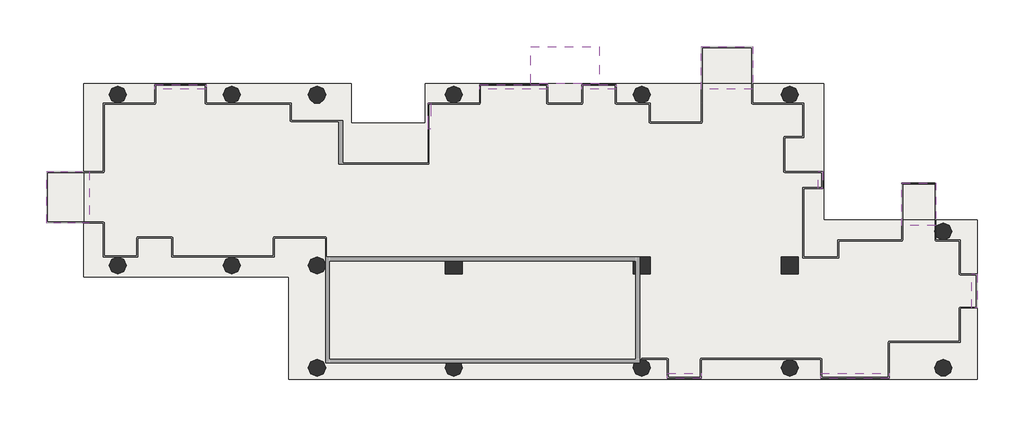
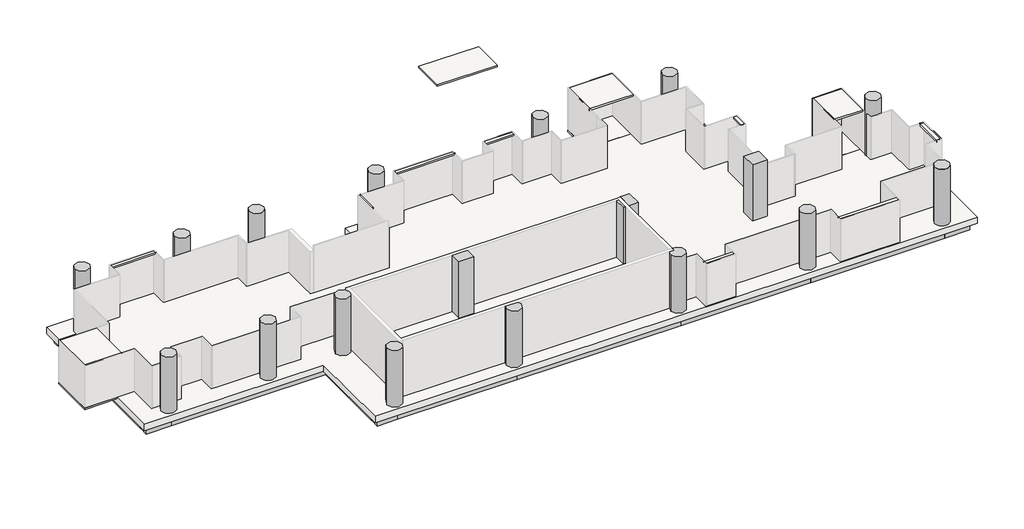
# One storey, part 2 of 2: 40 slabs, 25 beams, 18 columns, 1 wall.
"""IFC4 building model written with IfcOpenShell, lengths in millimetres."""

from ifc_helpers import new_model, si_unit, point, frame, frame_2d, origin, place, context, project, spatial, polyline, circle_curve, trimmed, segment, composite_curve, outline, extrude, faceted_brep, transform, mapped, element, save
from ifc_brep_helpers import plane_surface, cylinder_surface, advanced_brep
from components import ajn_arc_ossature_rec_ba_700x600_5242ffbb, ajn_arc_ossature_rec_ba_700x600_213c05e2, ajn_arc_ossature_rec_ba_700x600_4d623bda, ajn_arc_ossature_rec_ba_700x600_c2a8f1af, ajn_arc_ossature_rec_ba_700x600_b2f97811, ajn_arc_ossature_rec_ba_700x600_e688680c, ajn_arc_ossature_rec_ba_700x600_8adee879, ajn_arc_ossature_rec_ba_700x600_6677e51c, ajn_arc_ossature_rec_ba_700x600_60e35d56, ajn_arc_ossature_rec_ba_700x600_9ae0f913, ajn_arc_ossature_rec_ba_700x600_5c14351b, ajn_arc_ossature_rec_ba_700x600_e883967f, ajn_arc_ossature_rec_ba_700x600_0984b03c, ajn_arc_ossature_rec_ba_700x600_78f846f2, ajn_arc_ossature_rec_ba_700x600_e869caa8, ajn_arc_ossature_rec_ba_700x600_0388eb48, ajn_arc_ossature_rec_ba_700x600_e143517c, ajn_arc_ossature_rec_ba_700x600_758f1bfa, ajn_arc_ossature_rec_ba_700x600_64ba80e1, ajn_arc_poteau_circulaire_638d3540

model = new_model("IFC4")

# Units and contexts
model_context = context("Model", 3, world=origin())
ifc_project = project(units=[si_unit("LENGTHUNIT", "METRE", prefix="MILLI")], contexts=[model_context])

# Site, building, storey
site = spatial("IfcSite", under=ifc_project)
building = spatial("IfcBuilding", under=site)
storey = spatial("IfcBuildingStorey", under=building, Name="TW-L 16", Elevation=56799.9999686)

# Beams
placement = place(None, origin())
ajn_arc_ossature_rec_ba_700x600_shape = ajn_arc_ossature_rec_ba_700x600_5242ffbb(model_context)
element("IfcBeam", 1, ObjectType="AJN-ARC-OSSATURE REC-BA : 700x600", at=placement, inside=storey, context=model_context, shape_type="MappedRepresentation", body=[
    mapped(ajn_arc_ossature_rec_ba_700x600_shape, transform((119350.0, 39300.0, 56249.9999686), x_axis=(-1.0, 0.0, 0.0), y_axis=(0.0, -1.0, 0.0), z_axis=(0.0, 0.0, 1.0))),
])
ajn_arc_ossature_rec_ba_700x600_2_shape = ajn_arc_ossature_rec_ba_700x600_213c05e2(model_context)
element("IfcBeam", 2, ObjectType="AJN-ARC-OSSATURE REC-BA : 700x600", at=placement, inside=storey, context=model_context, shape_type="MappedRepresentation", body=[
    mapped(ajn_arc_ossature_rec_ba_700x600_2_shape, transform((100900.0, 34800.0, 56249.9999686), x_axis=(0.0, -1.0, 0.0), y_axis=(1.0, 0.0, 0.0), z_axis=(0.0, 0.0, 1.0))),
])
ajn_arc_ossature_rec_ba_700x600_3_shape = ajn_arc_ossature_rec_ba_700x600_4d623bda(model_context)
element("IfcBeam", 3, ObjectType="AJN-ARC-OSSATURE REC-BA : 700x600", at=placement, inside=storey, context=model_context, shape_type="MappedRepresentation", body=[
    mapped(ajn_arc_ossature_rec_ba_700x600_3_shape, transform((112150.0, 24900.0, 56249.9999686), x_axis=(1.0, 0.0, 0.0), y_axis=(0.0, 1.0, 0.0), z_axis=(0.0, 0.0, 1.0))),
])
ajn_arc_ossature_rec_ba_700x600_4_shape = ajn_arc_ossature_rec_ba_700x600_c2a8f1af(model_context)
element("IfcBeam", 4, ObjectType="AJN-ARC-OSSATURE REC-BA : 700x600", at=placement, inside=storey, context=model_context, shape_type="MappedRepresentation", body=[
    mapped(ajn_arc_ossature_rec_ba_700x600_4_shape, transform((116200.0, 24900.0, 56249.9999686), x_axis=(1.0, 0.0, 0.0), y_axis=(0.0, 1.0, 0.0), z_axis=(0.0, 0.0, 1.0))),
])
ajn_arc_ossature_rec_ba_700x600_5_shape = ajn_arc_ossature_rec_ba_700x600_b2f97811(model_context)
element("IfcBeam", 5, ObjectType="AJN-ARC-OSSATURE REC-BA : 700x600", at=placement, inside=storey, context=model_context, shape_type="MappedRepresentation", body=[
    mapped(ajn_arc_ossature_rec_ba_700x600_5_shape, transform((106900.0, 30300.0, 56249.9999686), x_axis=(1.0, 0.0, 0.0), y_axis=(0.0, 1.0, 0.0), z_axis=(0.0, 0.0, 1.0))),
])
ajn_arc_ossature_rec_ba_700x600_6_shape = ajn_arc_ossature_rec_ba_700x600_e688680c(model_context)
element("IfcBeam", 6, ObjectType="AJN-ARC-OSSATURE REC-BA : 700x600", at=placement, inside=storey, context=model_context, shape_type="MappedRepresentation", body=[
    mapped(ajn_arc_ossature_rec_ba_700x600_6_shape, transform((111700.0, 27600.0, 56249.9999686), x_axis=(0.0, -1.0, 0.0), y_axis=(1.0, 0.0, 0.0), z_axis=(0.0, 0.0, 1.0))),
])
ajn_arc_ossature_rec_ba_700x600_7_shape = ajn_arc_ossature_rec_ba_700x600_8adee879(model_context)
element("IfcBeam", 7, ObjectType="AJN-ARC-OSSATURE REC-BA : 700x600", at=placement, inside=storey, context=model_context, shape_type="MappedRepresentation", body=[
    mapped(ajn_arc_ossature_rec_ba_700x600_7_shape, transform((124750.0, 24900.0, 56249.9999686), x_axis=(1.0, 0.0, 0.0), y_axis=(0.0, 1.0, 0.0), z_axis=(0.0, 0.0, 1.0))),
])
element("IfcBeam", 8, ObjectType="AJN-ARC-OSSATURE REC-BA : 700x600", at=placement, inside=storey, context=model_context, shape_type="MappedRepresentation", body=[
    mapped(ajn_arc_ossature_rec_ba_700x600_7_shape, transform((124750.0, 39300.0, 56249.9999686), x_axis=(-1.0, 0.0, 0.0), y_axis=(0.0, -1.0, 0.0), z_axis=(0.0, 0.0, 1.0))),
])
ajn_arc_ossature_rec_ba_700x600_8_shape = ajn_arc_ossature_rec_ba_700x600_6677e51c(model_context)
element("IfcBeam", 9, ObjectType="AJN-ARC-OSSATURE REC-BA : 700x600", at=placement, inside=storey, context=model_context, shape_type="MappedRepresentation", body=[
    mapped(ajn_arc_ossature_rec_ba_700x600_8_shape, transform((133600.0, 24900.0, 56249.9999686), x_axis=(1.0, 0.0, 0.0), y_axis=(0.0, 1.0, 0.0), z_axis=(0.0, 0.0, 1.0))),
])
ajn_arc_ossature_rec_ba_700x600_9_shape = ajn_arc_ossature_rec_ba_700x600_60e35d56(model_context)
element("IfcBeam", 10, ObjectType="AJN-ARC-OSSATURE REC-BA : 700x600", at=placement, inside=storey, context=model_context, shape_type="MappedRepresentation", body=[
    mapped(ajn_arc_ossature_rec_ba_700x600_9_shape, transform((141550.0, 24900.0, 56249.9999686), x_axis=(1.0, 0.0, 0.0), y_axis=(0.0, 1.0, 0.0), z_axis=(0.0, 0.0, 1.0))),
])
ajn_arc_ossature_rec_ba_700x600_10_shape = ajn_arc_ossature_rec_ba_700x600_9ae0f913(model_context)
element("IfcBeam", 11, ObjectType="AJN-ARC-OSSATURE REC-BA : 700x600", at=placement, inside=storey, context=model_context, shape_type="MappedRepresentation", body=[
    mapped(ajn_arc_ossature_rec_ba_700x600_10_shape, transform((146200.0, 24900.0, 56249.9999686), x_axis=(1.0, 0.0, 0.0), y_axis=(0.0, 1.0, 0.0), z_axis=(0.0, 0.0, 1.0))),
])
element("IfcBeam", 12, ObjectType="AJN-ARC-OSSATURE REC-BA : 700x600", at=placement, inside=storey, context=model_context, shape_type="MappedRepresentation", body=[
    mapped(ajn_arc_ossature_rec_ba_700x600_10_shape, transform((101500.0, 39300.0, 56249.9999686), x_axis=(-1.0, 0.0, 0.0), y_axis=(0.0, -1.0, 0.0), z_axis=(0.0, 0.0, 1.0))),
])
ajn_arc_ossature_rec_ba_700x600_11_shape = ajn_arc_ossature_rec_ba_700x600_5c14351b(model_context)
element("IfcBeam", 13, ObjectType="AJN-ARC-OSSATURE REC-BA : 700x600", at=placement, inside=storey, context=model_context, shape_type="MappedRepresentation", body=[
    mapped(ajn_arc_ossature_rec_ba_700x600_11_shape, transform((146800.0, 28500.0, 56249.9999686), x_axis=(0.0, 1.0, 0.0), y_axis=(-1.0, 0.0, 0.0), z_axis=(0.0, 0.0, 1.0))),
])
element("IfcBeam", 14, ObjectType="AJN-ARC-OSSATURE REC-BA : 700x600", at=placement, inside=storey, context=model_context, shape_type="MappedRepresentation", body=[
    mapped(ajn_arc_ossature_rec_ba_700x600_11_shape, transform((138700.0, 35700.0, 56249.9999686), x_axis=(0.0, 1.0, 0.0), y_axis=(-1.0, 0.0, 0.0), z_axis=(0.0, 0.0, 1.0))),
])
ajn_arc_ossature_rec_ba_700x600_12_shape = ajn_arc_ossature_rec_ba_700x600_e883967f(model_context)
element("IfcBeam", 15, ObjectType="AJN-ARC-OSSATURE REC-BA : 700x600", at=placement, inside=storey, context=model_context, shape_type="MappedRepresentation", body=[
    mapped(ajn_arc_ossature_rec_ba_700x600_12_shape, transform((146200.0, 32100.0, 56249.9999686), x_axis=(-1.0, 0.0, 0.0), y_axis=(0.0, -1.0, 0.0), z_axis=(0.0, 0.0, 1.0))),
])
element("IfcBeam", 16, ObjectType="AJN-ARC-OSSATURE REC-BA : 700x600", at=placement, inside=storey, context=model_context, shape_type="MappedRepresentation", body=[
    mapped(ajn_arc_ossature_rec_ba_700x600_12_shape, transform((138100.0, 39300.0, 56249.9999686), x_axis=(-1.0, 0.0, 0.0), y_axis=(0.0, -1.0, 0.0), z_axis=(0.0, 0.0, 1.0))),
])
element("IfcBeam", 17, ObjectType="AJN-ARC-OSSATURE REC-BA : 700x600", at=placement, inside=storey, context=model_context, shape_type="MappedRepresentation", body=[
    mapped(ajn_arc_ossature_rec_ba_700x600_12_shape, transform((113200.0, 39300.0, 56249.9999686), x_axis=(-1.0, 0.0, 0.0), y_axis=(0.0, -1.0, 0.0), z_axis=(0.0, 0.0, 1.0))),
])
element("IfcBeam", 18, ObjectType="AJN-ARC-OSSATURE REC-BA : 700x600", at=placement, inside=storey, context=model_context, shape_type="MappedRepresentation", body=[
    mapped(ajn_arc_ossature_rec_ba_700x600_12_shape, transform((101500.0, 30300.0, 56249.9999686), x_axis=(1.0, 0.0, 0.0), y_axis=(0.0, 1.0, 0.0), z_axis=(0.0, 0.0, 1.0))),
])
ajn_arc_ossature_rec_ba_700x600_13_shape = ajn_arc_ossature_rec_ba_700x600_0984b03c(model_context)
element("IfcBeam", 19, ObjectType="AJN-ARC-OSSATURE REC-BA : 700x600", at=placement, inside=storey, context=model_context, shape_type="MappedRepresentation", body=[
    mapped(ajn_arc_ossature_rec_ba_700x600_13_shape, transform((142150.0, 32100.0, 56249.9999686), x_axis=(-1.0, 0.0, 0.0), y_axis=(0.0, -1.0, 0.0), z_axis=(0.0, 0.0, 1.0))),
])
ajn_arc_ossature_rec_ba_700x600_14_shape = ajn_arc_ossature_rec_ba_700x600_78f846f2(model_context)
element("IfcBeam", 20, ObjectType="AJN-ARC-OSSATURE REC-BA : 700x600", at=placement, inside=storey, context=model_context, shape_type="MappedRepresentation", body=[
    mapped(ajn_arc_ossature_rec_ba_700x600_14_shape, transform((133600.0, 39300.0, 56249.9999686), x_axis=(-1.0, 0.0, 0.0), y_axis=(0.0, -1.0, 0.0), z_axis=(0.0, 0.0, 1.0))),
])
ajn_arc_ossature_rec_ba_700x600_15_shape = ajn_arc_ossature_rec_ba_700x600_e869caa8(model_context)
element("IfcBeam", 21, ObjectType="AJN-ARC-OSSATURE REC-BA : 700x600", at=placement, inside=storey, context=model_context, shape_type="MappedRepresentation", body=[
    mapped(ajn_arc_ossature_rec_ba_700x600_15_shape, transform((118900.0, 38250.0, 56249.9999686), x_axis=(0.0, -1.0, 0.0), y_axis=(1.0, 0.0, 0.0), z_axis=(0.0, 0.0, 1.0))),
])
ajn_arc_ossature_rec_ba_700x600_16_shape = ajn_arc_ossature_rec_ba_700x600_0388eb48(model_context)
element("IfcBeam", 22, ObjectType="AJN-ARC-OSSATURE REC-BA : 700x600", at=placement, inside=storey, context=model_context, shape_type="MappedRepresentation", body=[
    mapped(ajn_arc_ossature_rec_ba_700x600_16_shape, transform((110350.0, 39300.0, 56249.9999686), x_axis=(-1.0, 0.0, 0.0), y_axis=(0.0, -1.0, 0.0), z_axis=(0.0, 0.0, 1.0))),
])
ajn_arc_ossature_rec_ba_700x600_17_shape = ajn_arc_ossature_rec_ba_700x600_e143517c(model_context)
element("IfcBeam", 23, ObjectType="AJN-ARC-OSSATURE REC-BA : 700x600", at=placement, inside=storey, context=model_context, shape_type="MappedRepresentation", body=[
    mapped(ajn_arc_ossature_rec_ba_700x600_17_shape, transform((105100.0, 39300.0, 56249.9999686), x_axis=(-1.0, 0.0, 0.0), y_axis=(0.0, -1.0, 0.0), z_axis=(0.0, 0.0, 1.0))),
])
ajn_arc_ossature_rec_ba_700x600_18_shape = ajn_arc_ossature_rec_ba_700x600_758f1bfa(model_context)
element("IfcBeam", 24, ObjectType="AJN-ARC-OSSATURE REC-BA : 700x600", at=placement, inside=storey, context=model_context, shape_type="MappedRepresentation", body=[
    mapped(ajn_arc_ossature_rec_ba_700x600_18_shape, transform((116350.0, 37200.0, 56249.9999686), x_axis=(-1.0, 0.0, 0.0), y_axis=(0.0, -1.0, 0.0), z_axis=(0.0, 0.0, 1.0))),
])
ajn_arc_ossature_rec_ba_700x600_19_shape = ajn_arc_ossature_rec_ba_700x600_64ba80e1(model_context)
element("IfcBeam", 25, ObjectType="AJN-ARC-OSSATURE REC-BA : 700x600", at=placement, inside=storey, context=model_context, shape_type="MappedRepresentation", body=[
    mapped(ajn_arc_ossature_rec_ba_700x600_19_shape, transform((113800.0, 38250.0, 56249.9999686), x_axis=(0.0, 1.0, 0.0), y_axis=(-1.0, 0.0, 0.0), z_axis=(0.0, 0.0, 1.0))),
])

# Columns
element("IfcColumn", 26, ObjectType="AJN-ARC-POTEAU CIRCULAIRE : ø90", at=placement, inside=storey, context=model_context, shape_type="SweptSolid", body=[
    extrude(outline(composite_curve([segment(trimmed(circle_curve(frame_2d((102100.0, 39300.0)), 450.0), [point((101650.0, 39300.0))], [point((102550.0, 39300.0))], False, "CARTESIAN"), True, "CONTINUOUS"), segment(trimmed(circle_curve(frame_2d((102100.0, 39300.0)), 450.0), [point((102550.0, 39300.0))], [point((101650.0, 39300.0))], False, "CARTESIAN"), True, "CONTINUOUS")], self_intersect=False)), frame((0.0, 0.0, 56799.9999686), z_axis=(0.0, 0.0, 1.0), x_axis=(1.0, 0.0, 0.0)), (0.0, 0.0, 1.0), 3600.0),
])
element("IfcColumn", 27, ObjectType="AJN-ARC-POTEAU CIRCULAIRE : ø90", at=placement, inside=storey, context=model_context, shape_type="SweptSolid", body=[
    extrude(outline(composite_curve([segment(trimmed(circle_curve(frame_2d((102100.0, 30300.0)), 450.0), [point((101650.0, 30300.0))], [point((102550.0, 30300.0))], False, "CARTESIAN"), True, "CONTINUOUS"), segment(trimmed(circle_curve(frame_2d((102100.0, 30300.0)), 450.0), [point((102550.0, 30300.0))], [point((101650.0, 30300.0))], False, "CARTESIAN"), True, "CONTINUOUS")], self_intersect=False)), frame((0.0, 0.0, 56799.9999686), z_axis=(0.0, 0.0, 1.0), x_axis=(1.0, 0.0, 0.0)), (0.0, 0.0, 1.0), 3600.0),
])
element("IfcColumn", 28, ObjectType="AJN-ARC-POTEAU CIRCULAIRE : ø90", at=placement, inside=storey, context=model_context, shape_type="SweptSolid", body=[
    extrude(outline(composite_curve([segment(trimmed(circle_curve(frame_2d((108100.0, 30300.0)), 450.0), [point((107650.0, 30300.0))], [point((108550.0, 30300.0))], False, "CARTESIAN"), True, "CONTINUOUS"), segment(trimmed(circle_curve(frame_2d((108100.0, 30300.0)), 450.0), [point((108550.0, 30300.0))], [point((107650.0, 30300.0))], False, "CARTESIAN"), True, "CONTINUOUS")], self_intersect=False)), frame((0.0, 0.0, 56799.9999686), z_axis=(0.0, 0.0, 1.0), x_axis=(1.0, 0.0, 0.0)), (0.0, 0.0, 1.0), 3600.0),
])
element("IfcColumn", 29, ObjectType="AJN-ARC-POTEAU CIRCULAIRE : ø90", at=placement, inside=storey, context=model_context, shape_type="SweptSolid", body=[
    extrude(outline(composite_curve([segment(trimmed(circle_curve(frame_2d((108100.0, 39300.0)), 450.0), [point((107650.0, 39300.0))], [point((108550.0, 39300.0))], False, "CARTESIAN"), True, "CONTINUOUS"), segment(trimmed(circle_curve(frame_2d((108100.0, 39300.0)), 450.0), [point((108550.0, 39300.0))], [point((107650.0, 39300.0))], False, "CARTESIAN"), True, "CONTINUOUS")], self_intersect=False)), frame((0.0, 0.0, 56799.9999686), z_axis=(0.0, 0.0, 1.0), x_axis=(1.0, 0.0, 0.0)), (0.0, 0.0, 1.0), 3600.0),
])
element("IfcColumn", 30, ObjectType="AJN-ARC-POTEAU CIRCULAIRE : ø90", at=placement, inside=storey, context=model_context, shape_type="SweptSolid", body=[
    extrude(outline(composite_curve([segment(trimmed(circle_curve(frame_2d((112600.0, 30300.0)), 450.0), [point((112150.0, 30300.0))], [point((113050.0, 30300.0))], False, "CARTESIAN"), True, "CONTINUOUS"), segment(trimmed(circle_curve(frame_2d((112600.0, 30300.0)), 450.0), [point((113050.0, 30300.0))], [point((112150.0, 30300.0))], False, "CARTESIAN"), True, "CONTINUOUS")], self_intersect=False)), frame((0.0, 0.0, 56799.9999686), z_axis=(0.0, 0.0, 1.0), x_axis=(1.0, 0.0, 0.0)), (0.0, 0.0, 1.0), 3600.0),
])
element("IfcColumn", 31, ObjectType="AJN-ARC-POTEAU CIRCULAIRE : ø90", at=placement, inside=storey, context=model_context, shape_type="SweptSolid", body=[
    extrude(outline(composite_curve([segment(trimmed(circle_curve(frame_2d((112600.0, 24900.0)), 450.0), [point((112150.0, 24900.0))], [point((113050.0, 24900.0))], False, "CARTESIAN"), True, "CONTINUOUS"), segment(trimmed(circle_curve(frame_2d((112600.0, 24900.0)), 450.0), [point((113050.0, 24900.0))], [point((112150.0, 24900.0))], False, "CARTESIAN"), True, "CONTINUOUS")], self_intersect=False)), frame((0.0, 0.0, 56799.9999686), z_axis=(0.0, 0.0, 1.0), x_axis=(1.0, 0.0, 0.0)), (0.0, 0.0, 1.0), 3600.0),
])
element("IfcColumn", 32, ObjectType="AJN-ARC-POTEAU CIRCULAIRE : ø90", at=placement, inside=storey, context=model_context, shape_type="SweptSolid", body=[
    extrude(outline(composite_curve([segment(trimmed(circle_curve(frame_2d((119800.0, 24900.0)), 450.0), [point((120250.0, 24900.0))], [point((119350.0, 24900.0))], False, "CARTESIAN"), True, "CONTINUOUS"), segment(trimmed(circle_curve(frame_2d((119800.0, 24900.0)), 450.0), [point((119350.0, 24900.0))], [point((119425.8342613, 25150.0))], False, "CARTESIAN"), True, "CONTINUOUS"), segment(polyline([(119425.8342613, 25150.0), (120174.1657387, 25150.0)]), True, "CONTINUOUS"), segment(trimmed(circle_curve(frame_2d((119800.0, 24900.0)), 450.0), [point((120174.1657387, 25150.0))], [point((120250.0, 24900.0))], False, "CARTESIAN"), True, "CONTINUOUS")], self_intersect=False)), frame((0.0, 0.0, 56799.9999686), z_axis=(0.0, 0.0, 1.0), x_axis=(1.0, 0.0, 0.0)), (0.0, 0.0, 1.0), 3600.0),
])
element("IfcColumn", 33, ObjectType="AJN-ARC-POTEAU CIRCULAIRE : ø90", at=placement, inside=storey, context=model_context, shape_type="SweptSolid", body=[
    extrude(outline(composite_curve([segment(trimmed(circle_curve(frame_2d((119800.0, 39300.0)), 450.0), [point((119350.0, 39300.0))], [point((120250.0, 39300.0))], False, "CARTESIAN"), True, "CONTINUOUS"), segment(trimmed(circle_curve(frame_2d((119800.0, 39300.0)), 450.0), [point((120250.0, 39300.0))], [point((119350.0, 39300.0))], False, "CARTESIAN"), True, "CONTINUOUS")], self_intersect=False)), frame((0.0, 0.0, 56799.9999686), z_axis=(0.0, 0.0, 1.0), x_axis=(1.0, 0.0, 0.0)), (0.0, 0.0, 1.0), 3600.0),
])
element("IfcColumn", 34, ObjectType="AJN-ARC-POTEAU CIRCULAIRE : ø90", at=placement, inside=storey, context=model_context, shape_type="SweptSolid", body=[
    extrude(outline(composite_curve([segment(trimmed(circle_curve(frame_2d((129700.0, 39300.0)), 450.0), [point((129250.0, 39300.0))], [point((130150.0, 39300.0))], False, "CARTESIAN"), True, "CONTINUOUS"), segment(trimmed(circle_curve(frame_2d((129700.0, 39300.0)), 450.0), [point((130150.0, 39300.0))], [point((129250.0, 39300.0))], False, "CARTESIAN"), True, "CONTINUOUS")], self_intersect=False)), frame((0.0, 0.0, 56799.9999686), z_axis=(0.0, 0.0, 1.0), x_axis=(1.0, 0.0, 0.0)), (0.0, 0.0, 1.0), 3600.0),
])
element("IfcColumn", 35, ObjectType="AJN-ARC-POTEAU CIRCULAIRE : ø90", at=placement, inside=storey, context=model_context, shape_type="SweptSolid", body=[
    extrude(outline(composite_curve([segment(trimmed(circle_curve(frame_2d((129700.0, 24900.0)), 450.0), [point((130150.0, 24900.0))], [point((129250.0, 24900.0))], False, "CARTESIAN"), True, "CONTINUOUS"), segment(trimmed(circle_curve(frame_2d((129700.0, 24900.0)), 450.0), [point((129250.0, 24900.0))], [point((129325.8342613, 25150.0))], False, "CARTESIAN"), True, "CONTINUOUS"), segment(polyline([(129325.8342613, 25150.0), (129600.0, 25150.0), (129600.0, 25338.7482194)]), True, "CONTINUOUS"), segment(trimmed(circle_curve(frame_2d((129700.0, 24900.0)), 450.0), [point((129600.0, 25338.7482194))], [point((130150.0, 24900.0))], False, "CARTESIAN"), True, "CONTINUOUS")], self_intersect=False)), frame((0.0, 0.0, 56799.9999686), z_axis=(0.0, 0.0, 1.0), x_axis=(1.0, 0.0, 0.0)), (0.0, 0.0, 1.0), 3600.0),
])
element("IfcColumn", 36, ObjectType="AJN-ARC-POTEAU CIRCULAIRE : ø90", at=placement, inside=storey, context=model_context, shape_type="SweptSolid", body=[
    extrude(outline(composite_curve([segment(trimmed(circle_curve(frame_2d((137500.0, 39300.0)), 450.0), [point((137050.0, 39300.0))], [point((137950.0, 39300.0))], False, "CARTESIAN"), True, "CONTINUOUS"), segment(trimmed(circle_curve(frame_2d((137500.0, 39300.0)), 450.0), [point((137950.0, 39300.0))], [point((137050.0, 39300.0))], False, "CARTESIAN"), True, "CONTINUOUS")], self_intersect=False)), frame((0.0, 0.0, 56799.9999686), z_axis=(0.0, 0.0, 1.0), x_axis=(1.0, 0.0, 0.0)), (0.0, 0.0, 1.0), 3600.0),
])
element("IfcColumn", 37, ObjectType="AJN-ARC-POTEAU CIRCULAIRE : ø90", at=placement, inside=storey, context=model_context, shape_type="SweptSolid", body=[
    extrude(outline(composite_curve([segment(trimmed(circle_curve(frame_2d((137500.0, 24900.0)), 450.0), [point((137050.0, 24900.0))], [point((137950.0, 24900.0))], False, "CARTESIAN"), True, "CONTINUOUS"), segment(trimmed(circle_curve(frame_2d((137500.0, 24900.0)), 450.0), [point((137950.0, 24900.0))], [point((137050.0, 24900.0))], False, "CARTESIAN"), True, "CONTINUOUS")], self_intersect=False)), frame((0.0, 0.0, 56799.9999686), z_axis=(0.0, 0.0, 1.0), x_axis=(1.0, 0.0, 0.0)), (0.0, 0.0, 1.0), 3600.0),
])
element("IfcColumn", 38, ObjectType="AJN-ARC-POTEAU CIRCULAIRE : ø90", at=placement, inside=storey, context=model_context, shape_type="AdvancedBrep", body=[
    advanced_brep(
    [(146050.0, 32100.0, 56799.9999686), (145638.6089983, 31651.6593424, 56799.9999686), (145561.3910017, 31651.6593424, 56799.9999686), (145214.068817, 31868.5758828, 56799.9999686), (145214.068817, 32331.4241172, 56799.9999686), (145150.0, 32100.0, 60399.9999686), (146050.0, 32100.0, 60399.9999686), (145214.068817, 32331.4241172, 59499.9999686), (145164.068817, 32211.6423025, 59499.9999686), (145164.068817, 32211.6423025, 56799.9999686), (145150.0, 32100.0, 56799.9999686), (145164.068817, 31988.3576975, 56799.9999686), (145164.068817, 31988.3576975, 59499.9999686), (145214.068817, 31868.5758828, 59499.9999686), (145561.3910017, 31651.6593424, 59499.9999686), (145638.6089983, 31651.6593424, 59499.9999686)],
    [
        (0, 1, circle_curve(frame((145600.0, 32100.0, 56799.9999686), z_axis=(0.0, 0.0, -1.0), x_axis=(1.0, 0.0, 0.0)), 450.0)),
        (1, 2),
        (2, 3, circle_curve(frame((145600.0, 32100.0, 56799.9999686), z_axis=(0.0, 0.0, -1.0), x_axis=(1.0, 0.0, 0.0)), 450.0)),
        (3, 4),
        (4, 0, circle_curve(frame((145600.0, 32100.0, 56799.9999686), z_axis=(0.0, 0.0, -1.0), x_axis=(1.0, 0.0, 0.0)), 450.0)),
        (5, 6, circle_curve(frame((145600.0, 32100.0, 60399.9999686), z_axis=(0.0, 0.0, -1.0), x_axis=(1.0, 0.0, 0.0)), 450.0)),
        (6, 0),
        (4, 7),
        (7, 8, circle_curve(frame((145600.0, 32100.0, 59499.9999686), z_axis=(0.0, 0.0, 1.0), x_axis=(1.0, 0.0, 0.0)), 450.0)),
        (8, 9),
        (9, 10, circle_curve(frame((145600.0, 32100.0, 56799.9999686), z_axis=(0.0, 0.0, 1.0), x_axis=(1.0, 0.0, 0.0)), 450.0)),
        (10, 5),
        (6, 5, circle_curve(frame((145600.0, 32100.0, 60399.9999686), z_axis=(0.0, 0.0, -1.0), x_axis=(1.0, 0.0, 0.0)), 450.0)),
        (10, 11, circle_curve(frame((145600.0, 32100.0, 56799.9999686), z_axis=(0.0, 0.0, 1.0), x_axis=(1.0, 0.0, 0.0)), 450.0)),
        (11, 12),
        (12, 13, circle_curve(frame((145600.0, 32100.0, 59499.9999686), z_axis=(0.0, 0.0, 1.0), x_axis=(1.0, 0.0, 0.0)), 450.0)),
        (13, 3),
        (2, 14),
        (14, 15, circle_curve(frame((145600.0, 32100.0, 59499.9999686), z_axis=(0.0, 0.0, 1.0), x_axis=(1.0, 0.0, 0.0)), 450.0)),
        (15, 1),
        (15, 14),
        (13, 7),
        (8, 12),
        (11, 9),
    ],
    [
        plane_surface(frame((146050.0, 32100.0, 56799.9999686), z_axis=(0.0, 0.0, -1.0), x_axis=(0.0, -1.0, 0.0))),
        cylinder_surface(frame((145600.0, 32100.0, 56799.9999686), z_axis=(0.0, 0.0, 1.0), x_axis=(1.0, 0.0, 0.0)), 450.0),
        plane_surface(frame((146050.0, 32100.0, 60399.9999686), z_axis=(0.0, 0.0, 1.0), x_axis=(0.0, 1.0, 0.0))),
        plane_surface(frame((146472.681474, 31651.6593424, 56799.9999686), z_axis=(0.0, -1.0, 0.0), x_axis=(-1.0, 0.0, 0.0))),
        plane_surface(frame((145214.068817, 31651.6593424, 59499.9999686), z_axis=(0.0, 0.0, -1.0), x_axis=(0.0, -1.0, 0.0))),
        plane_surface(frame((145214.068817, 31651.6593424, 56799.9999686), z_axis=(-1.0, 0.0, 0.0), x_axis=(0.0, 1.0, 0.0))),
        plane_surface(frame((145164.068817, 31651.6593424, 56799.9999686), z_axis=(1.0, 0.0, 0.0), x_axis=(0.0, -1.0, 0.0))),
        plane_surface(frame((145214.068817, 34626.6593424, 59499.9999686), z_axis=(0.0, 0.0, -1.0), x_axis=(-1.0, 0.0, 0.0))),
    ],
    [
        (0, [[1, 2, 3, 4, 5]]),
        (1, [[6, 7, -5, 8, 9, 10, 11, 12]]),
        (1, [[-7, 13, -12, 14, 15, 16, 17, -3, 18, 19, 20, -1]]),
        (2, [[-6, -13]]),
        (3, [[21, -18, -2, -20]]),
        (4, [[-21, -19]]),
        (5, [[22, -8, -4, -17]]),
        (6, [[23, -15, 24, -10]]),
        (7, [[-22, -16, -23, -9]]),
        (0, [[-11, -24, -14]]),
    ],
),
])
ajn_arc_poteau_circulaire_shape = ajn_arc_poteau_circulaire_638d3540(model_context)
element("IfcColumn", 39, ObjectType="AJN-ARC-POTEAU CIRCULAIRE : ø90", at=placement, inside=storey, context=model_context, shape_type="MappedRepresentation", body=[
    mapped(ajn_arc_poteau_circulaire_shape, transform((112600.0, 39300.0, 0.0), x_axis=(1.0, 0.0, 0.0), y_axis=(0.0, 1.0, 0.0), z_axis=(0.0, 0.0, 1.0))),
])
element("IfcColumn", 40, ObjectType="AJN-ARC-POTEAU CIRCULAIRE : ø90", at=placement, inside=storey, context=model_context, shape_type="MappedRepresentation", body=[
    mapped(ajn_arc_poteau_circulaire_shape, transform((145600.0, 24900.0, 0.0), x_axis=(1.0, 0.0, 0.0), y_axis=(0.0, 1.0, 0.0), z_axis=(0.0, 0.0, 1.0))),
])
element("IfcColumn", 41, ObjectType="AJN-ARC-POTEAU RECTANGULAIRE : 900 mm x 900 mm", at=placement, inside=storey, context=model_context, shape_type="SweptSolid", body=[
    extrude(outline(polyline([(137950.0, 30750.0), (137950.0, 29850.0), (137050.0, 29850.0), (137050.0, 30750.0), (137950.0, 30750.0)])), frame((0.0, 0.0, 56799.9999686), z_axis=(0.0, 0.0, 1.0), x_axis=(1.0, 0.0, 0.0)), (0.0, 0.0, 1.0), 3600.0),
])
element("IfcColumn", 42, ObjectType="AJN-ARC-POTEAU RECTANGULAIRE : 900 mm x 900 mm", at=placement, inside=storey, context=model_context, shape_type="SweptSolid", body=[
    extrude(outline(polyline([(129400.0, 29850.0), (129250.0, 29850.0), (129250.0, 30550.0), (129400.0, 30550.0), (129400.0, 29850.0)])), frame((0.0, 0.0, 56799.9999686), z_axis=(0.0, 0.0, 1.0), x_axis=(1.0, 0.0, 0.0)), (0.0, 0.0, 1.0), 3600.0),
    extrude(outline(polyline([(130150.0, 30750.0), (130150.0, 29850.0), (129600.0, 29850.0), (129600.0, 30750.0), (130150.0, 30750.0)])), frame((0.0, 0.0, 56799.9999686), z_axis=(0.0, 0.0, 1.0), x_axis=(1.0, 0.0, 0.0)), (0.0, 0.0, 1.0), 3600.0),
])
element("IfcColumn", 43, ObjectType="AJN-ARC-POTEAU RECTANGULAIRE : 900 mm x 900 mm", at=placement, inside=storey, context=model_context, shape_type="SweptSolid", body=[
    extrude(outline(polyline([(120250.0, 29850.0), (119350.0, 29850.0), (119350.0, 30550.0), (120250.0, 30550.0), (120250.0, 29850.0)])), frame((0.0, 0.0, 56799.9999686), z_axis=(0.0, 0.0, 1.0), x_axis=(1.0, 0.0, 0.0)), (0.0, 0.0, 1.0), 3600.0),
])

# Slabs
element("IfcSlab", 44, ObjectType="AJN-ARC-SLAB-10cm", at=placement, inside=storey, context=model_context, shape_type="SweptSolid", body=[
    extrude(outline(polyline([(100300.0, 32550.0), (98347.1743518, 32550.0), (98347.1743518, 35250.0), (100300.0, 35250.0), (100300.0, 32550.0)])), frame((0.0, 0.0, 56699.9999686), z_axis=(0.0, 0.0, 1.0), x_axis=(1.0, 0.0, 0.0)), (0.0, 0.0, 1.0), 100.0),
])
element("IfcSlab", 45, ObjectType="AJN-ARC-SLAB-10cm", at=placement, inside=storey, context=model_context, shape_type="SweptSolid", body=[
    extrude(outline(polyline([(145214.068817, 32700.0), (143414.068817, 32700.0), (143414.068817, 34651.6593424), (145214.068817, 34651.6593424), (145214.068817, 32700.0)])), frame((0.0, 0.0, 56699.9999686), z_axis=(0.0, 0.0, 1.0), x_axis=(1.0, 0.0, 0.0)), (0.0, 0.0, 1.0), 100.0),
])
element("IfcSlab", 46, ObjectType="AJN-ARC-SLAB-10cm", at=placement, inside=storey, context=model_context, shape_type="SweptSolid", body=[
    extrude(outline(polyline([(135550.0, 39900.0), (132850.0, 39900.0), (132850.0, 41850.0), (135550.0, 41850.0), (135550.0, 39900.0)])), frame((0.0, 0.0, 56699.9999686), z_axis=(0.0, 0.0, 1.0), x_axis=(1.0, 0.0, 0.0)), (0.0, 0.0, 1.0), 100.0),
])
element("IfcSlab", 47, ObjectType="AJN-ARC-SLAB-10cm", at=placement, inside=storey, context=model_context, shape_type="SweptSolid", body=[
    extrude(outline(polyline([(135550.0, 39900.0), (132850.0, 39900.0), (132850.0, 41850.0), (135550.0, 41850.0), (135550.0, 39900.0)])), frame((0.0, 0.0, 56699.9999686), z_axis=(0.0, 0.0, 1.0), x_axis=(1.0, 0.0, 0.0)), (0.0, 0.0, 1.0), 100.0),
])
element("IfcSlab", 48, ObjectType="AJN-ARC-SLAB-10cm", at=placement, inside=storey, context=model_context, shape_type="SweptSolid", body=[
    extrude(outline(polyline([(135550.0, 39900.0), (132850.0, 39900.0), (132850.0, 41850.0), (135550.0, 41850.0), (135550.0, 39900.0)])), frame((0.0, 0.0, 56699.9999686), z_axis=(0.0, 0.0, 1.0), x_axis=(1.0, 0.0, 0.0)), (0.0, 0.0, 1.0), 100.0),
])
element("IfcSlab", 49, ObjectType="AJN-ARC-SLAB-10cm", at=placement, inside=storey, context=model_context, shape_type="SweptSolid", body=[
    extrude(outline(polyline([(135550.0, 39900.0), (132850.0, 39900.0), (132850.0, 41850.0), (135550.0, 41850.0), (135550.0, 39900.0)])), frame((0.0, 0.0, 56699.9999686), z_axis=(0.0, 0.0, 1.0), x_axis=(1.0, 0.0, 0.0)), (0.0, 0.0, 1.0), 100.0),
])
element("IfcSlab", 50, ObjectType="AJN-ARC-SLAB-10cm", at=placement, inside=storey, context=model_context, shape_type="SweptSolid", body=[
    extrude(outline(polyline([(135550.0, 39900.0), (132850.0, 39900.0), (132850.0, 41850.0), (135550.0, 41850.0), (135550.0, 39900.0)])), frame((0.0, 0.0, 56699.9999686), z_axis=(0.0, 0.0, 1.0), x_axis=(1.0, 0.0, 0.0)), (0.0, 0.0, 1.0), 100.0),
])
element("IfcSlab", 51, ObjectType="AJN-ARC-SLAB-10cm", at=placement, inside=storey, context=model_context, shape_type="SweptSolid", body=[
    extrude(outline(polyline([(135550.0, 39900.0), (132850.0, 39900.0), (132850.0, 41850.0), (135550.0, 41850.0), (135550.0, 39900.0)])), frame((0.0, 0.0, 56699.9999686), z_axis=(0.0, 0.0, 1.0), x_axis=(1.0, 0.0, 0.0)), (0.0, 0.0, 1.0), 100.0),
])
element("IfcSlab", 52, ObjectType="AJN-ARC-SLAB-10cm", at=placement, inside=storey, context=model_context, shape_type="SweptSolid", body=[
    extrude(outline(polyline([(135550.0, 39900.0), (132850.0, 39900.0), (132850.0, 41850.0), (135550.0, 41850.0), (135550.0, 39900.0)])), frame((0.0, 0.0, 56699.9999686), z_axis=(0.0, 0.0, 1.0), x_axis=(1.0, 0.0, 0.0)), (0.0, 0.0, 1.0), 100.0),
])
element("IfcSlab", 53, ObjectType="AJN-ARC-SLAB-10cm", at=placement, inside=storey, context=model_context, shape_type="SweptSolid", body=[
    extrude(outline(polyline([(135550.0, 39900.0), (132850.0, 39900.0), (132850.0, 41850.0), (135550.0, 41850.0), (135550.0, 39900.0)])), frame((0.0, 0.0, 56699.9999686), z_axis=(0.0, 0.0, 1.0), x_axis=(1.0, 0.0, 0.0)), (0.0, 0.0, 1.0), 100.0),
])
element("IfcSlab", 54, ObjectType="AJN-ARC-SLAB-10cm", at=placement, inside=storey, context=model_context, shape_type="SweptSolid", body=[
    extrude(outline(polyline([(135550.0, 39900.0), (132850.0, 39900.0), (132850.0, 41850.0), (135550.0, 41850.0), (135550.0, 39900.0)])), frame((0.0, 0.0, 56699.9999686), z_axis=(0.0, 0.0, 1.0), x_axis=(1.0, 0.0, 0.0)), (0.0, 0.0, 1.0), 100.0),
])
element("IfcSlab", 55, ObjectType="AJN-ARC-SLAB-10cm", at=placement, inside=storey, context=model_context, shape_type="SweptSolid", body=[
    extrude(outline(polyline([(135550.0, 39900.0), (132850.0, 39900.0), (132850.0, 41850.0), (135550.0, 41850.0), (135550.0, 39900.0)])), frame((0.0, 0.0, 56699.9999686), z_axis=(0.0, 0.0, 1.0), x_axis=(1.0, 0.0, 0.0)), (0.0, 0.0, 1.0), 100.0),
])
element("IfcSlab", 56, ObjectType="AJN-ARC-SLAB-10cm", at=placement, inside=storey, context=model_context, shape_type="SweptSolid", body=[
    extrude(outline(polyline([(135550.0, 39900.0), (132850.0, 39900.0), (132850.0, 41850.0), (135550.0, 41850.0), (135550.0, 39900.0)])), frame((0.0, 0.0, 56699.9999686), z_axis=(0.0, 0.0, 1.0), x_axis=(1.0, 0.0, 0.0)), (0.0, 0.0, 1.0), 100.0),
])
element("IfcSlab", 57, ObjectType="AJN-ARC-SLAB-10cm", at=placement, inside=storey, context=model_context, shape_type="SweptSolid", body=[
    extrude(outline(polyline([(135550.0, 39900.0), (132850.0, 39900.0), (132850.0, 41850.0), (135550.0, 41850.0), (135550.0, 39900.0)])), frame((0.0, 0.0, 56699.9999686), z_axis=(0.0, 0.0, 1.0), x_axis=(1.0, 0.0, 0.0)), (0.0, 0.0, 1.0), 100.0),
])
element("IfcSlab", 58, ObjectType="AJN-ARC-SLAB-10cm", at=placement, inside=storey, context=model_context, shape_type="SweptSolid", body=[
    extrude(outline(polyline([(135550.0, 39900.0), (132850.0, 39900.0), (132850.0, 41850.0), (135550.0, 41850.0), (135550.0, 39900.0)])), frame((0.0, 0.0, 56699.9999686), z_axis=(0.0, 0.0, 1.0), x_axis=(1.0, 0.0, 0.0)), (0.0, 0.0, 1.0), 100.0),
])
element("IfcSlab", 59, ObjectType="AJN-ARC-SLAB-10cm", at=placement, inside=storey, context=model_context, shape_type="SweptSolid", body=[
    extrude(outline(polyline([(135550.0, 39900.0), (132850.0, 39900.0), (132850.0, 41850.0), (135550.0, 41850.0), (135550.0, 39900.0)])), frame((0.0, 0.0, 56699.9999686), z_axis=(0.0, 0.0, 1.0), x_axis=(1.0, 0.0, 0.0)), (0.0, 0.0, 1.0), 100.0),
])
element("IfcSlab", 60, ObjectType="AJN-ARC-SLAB-10cm", at=placement, inside=storey, context=model_context, shape_type="SweptSolid", body=[
    extrude(outline(polyline([(135550.0, 39900.0), (132850.0, 39900.0), (132850.0, 41850.0), (135550.0, 41850.0), (135550.0, 39900.0)])), frame((0.0, 0.0, 56699.9999686), z_axis=(0.0, 0.0, 1.0), x_axis=(1.0, 0.0, 0.0)), (0.0, 0.0, 1.0), 100.0),
])
element("IfcSlab", 61, ObjectType="AJN-ARC-SLAB-10cm", at=placement, inside=storey, context=model_context, shape_type="SweptSolid", body=[
    extrude(outline(polyline([(135550.0, 39900.0), (132850.0, 39900.0), (132850.0, 41850.0), (135550.0, 41850.0), (135550.0, 39900.0)])), frame((0.0, 0.0, 56699.9999686), z_axis=(0.0, 0.0, 1.0), x_axis=(1.0, 0.0, 0.0)), (0.0, 0.0, 1.0), 100.0),
])
element("IfcSlab", 62, ObjectType="AJN-ARC-SLAB-10cm", at=placement, inside=storey, context=model_context, shape_type="SweptSolid", body=[
    extrude(outline(polyline([(135550.0, 39900.0), (132850.0, 39900.0), (132850.0, 41850.0), (135550.0, 41850.0), (135550.0, 39900.0)])), frame((0.0, 0.0, 56699.9999686), z_axis=(0.0, 0.0, 1.0), x_axis=(1.0, 0.0, 0.0)), (0.0, 0.0, 1.0), 100.0),
])
element("IfcSlab", 63, ObjectType="AJN-ARC-SLAB-10cm", at=placement, inside=storey, context=model_context, shape_type="SweptSolid", body=[
    extrude(outline(polyline([(139250.0, 34350.0), (139000.0, 34350.0), (139000.0, 35250.0), (139250.0, 35250.0), (139250.0, 34350.0)])), frame((0.0, 0.0, 59399.9999686), z_axis=(0.0, 0.0, 1.0), x_axis=(1.0, 0.0, 0.0)), (0.0, 0.0, 1.0), 100.0),
])
element("IfcSlab", 64, ObjectType="AJN-ARC-SLAB-10cm", at=placement, inside=storey, context=model_context, shape_type="SweptSolid", body=[
    extrude(outline(polyline([(142750.4383953, 24350.0), (139150.4383953, 24350.0), (139150.4383953, 24600.0), (142750.4383953, 24600.0), (142750.4383953, 24350.0)])), frame((0.0, 0.0, 59399.9999686), z_axis=(0.0, 0.0, 1.0), x_axis=(1.0, 0.0, 0.0)), (0.0, 0.0, 1.0), 100.0),
])
element("IfcSlab", 65, ObjectType="AJN-ARC-SLAB-10cm", at=placement, inside=storey, context=model_context, shape_type="SweptSolid", body=[
    extrude(outline(polyline([(135550.0, 39600.0), (132850.0, 39600.0), (132850.0, 41850.0), (135550.0, 41850.0), (135550.0, 39600.0)])), frame((0.0, 0.0, 59399.9999686), z_axis=(0.0, 0.0, 1.0), x_axis=(1.0, 0.0, 0.0)), (0.0, 0.0, 1.0), 100.0),
])
element("IfcSlab", 66, ObjectType="AJN-ARC-SLAB-10cm", at=placement, inside=storey, context=model_context, shape_type="SweptSolid", body=[
    extrude(outline(polyline([(118600.0, 37500.0), (118450.0, 37500.0), (118450.0, 38850.0), (118600.0, 38850.0), (118600.0, 37500.0)])), frame((0.0, 0.0, 59399.9999686), z_axis=(0.0, 0.0, 1.0), x_axis=(1.0, 0.0, 0.0)), (0.0, 0.0, 1.0), 100.0),
])
element("IfcSlab", 67, ObjectType="AJN-ARC-SLAB-10cm", at=placement, inside=storey, context=model_context, shape_type="SweptSolid", body=[
    extrude(outline(polyline([(106750.0, 39600.0), (104050.0, 39600.0), (104050.0, 39850.0), (106750.0, 39850.0), (106750.0, 39600.0)])), frame((0.0, 0.0, 59399.9999686), z_axis=(0.0, 0.0, 1.0), x_axis=(1.0, 0.0, 0.0)), (0.0, 0.0, 1.0), 100.0),
])
element("IfcSlab", 68, ObjectType="AJN-ARC-SLAB-10cm", at=placement, inside=storey, context=model_context, shape_type="SweptSolid", body=[
    extrude(outline(polyline([(147397.681474, 28048.7282176), (147100.0, 28048.7282176), (147100.0, 29848.7282176), (147397.681474, 29848.7282176), (147397.681474, 28048.7282176)])), frame((0.0, 0.0, 59399.9999686), z_axis=(0.0, 0.0, 1.0), x_axis=(1.0, 0.0, 0.0)), (0.0, 0.0, 1.0), 100.0),
])
element("IfcSlab", 69, ObjectType="AJN-ARC-SLAB-10cm", at=placement, inside=storey, context=model_context, shape_type="SweptSolid", body=[
    extrude(outline(polyline([(132850.3663867, 24350.0), (131050.3663867, 24350.0), (131050.3663867, 24600.0), (132850.3663867, 24600.0), (132850.3663867, 24350.0)])), frame((0.0, 0.0, 59399.9999686), z_axis=(0.0, 0.0, 1.0), x_axis=(1.0, 0.0, 0.0)), (0.0, 0.0, 1.0), 100.0),
])
element("IfcSlab", 70, ObjectType="AJN-ARC-SLAB-10cm", at=placement, inside=storey, context=model_context, shape_type="SweptSolid", body=[
    extrude(outline(polyline([(145214.068817, 32400.0), (143414.068817, 32400.0), (143414.068817, 34651.6593424), (145214.068817, 34651.6593424), (145214.068817, 32400.0)])), frame((0.0, 0.0, 59399.9999686), z_axis=(0.0, 0.0, 1.0), x_axis=(1.0, 0.0, 0.0)), (0.0, 0.0, 1.0), 100.0),
])
element("IfcSlab", 71, ObjectType="AJN-ARC-SLAB-10cm", at=placement, inside=storey, context=model_context, shape_type="SweptSolid", body=[
    extrude(outline(polyline([(100600.0, 32550.0), (98347.1743518, 32550.0), (98347.1743518, 35250.0), (100600.0, 35250.0), (100600.0, 32550.0)])), frame((0.0, 0.0, 59399.9999686), z_axis=(0.0, 0.0, 1.0), x_axis=(1.0, 0.0, 0.0)), (0.0, 0.0, 1.0), 100.0),
])
element("IfcSlab", 72, ObjectType="AJN-ARC-SLAB-10cm", at=placement, inside=storey, context=model_context, shape_type="SweptSolid", body=[
    extrude(outline(polyline([(124761.0540705, 39600.0), (121161.0540705, 39600.0), (121161.0540705, 39850.0), (124761.0540705, 39850.0), (124761.0540705, 39600.0)])), frame((0.0, 0.0, 59399.9999686), z_axis=(0.0, 0.0, 1.0), x_axis=(1.0, 0.0, 0.0)), (0.0, 0.0, 1.0), 100.0),
])
element("IfcSlab", 73, ObjectType="AJN-ARC-SLAB-10cm", at=placement, inside=storey, context=model_context, shape_type="SweptSolid", body=[
    extrude(outline(polyline([(128357.0344085, 39600.0), (126557.0344085, 39600.0), (126557.0344085, 39850.0), (128357.0344085, 39850.0), (128357.0344085, 39600.0)])), frame((0.0, 0.0, 59399.9999686), z_axis=(0.0, 0.0, 1.0), x_axis=(1.0, 0.0, 0.0)), (0.0, 0.0, 1.0), 100.0),
])
element("IfcSlab", 74, ObjectType="AJN-ARC-SLAB-10cm", at=placement, inside=storey, context=model_context, shape_type="SweptSolid", body=[
    extrude(outline(polyline([(128357.0344085, 39600.0), (126557.0344085, 39600.0), (126557.0344085, 39850.0), (128357.0344085, 39850.0), (128357.0344085, 39600.0)])), frame((0.0, 0.0, 59399.9999686), z_axis=(0.0, 0.0, 1.0), x_axis=(1.0, 0.0, 0.0)), (0.0, 0.0, 1.0), 100.0),
])
element("IfcSlab", 75, ObjectType="AJN-ARC-SLAB-10cm", at=placement, inside=storey, context=model_context, shape_type="SweptSolid", body=[
    extrude(outline(polyline([(128357.0344085, 39600.0), (126557.0344085, 39600.0), (126557.0344085, 39850.0), (128357.0344085, 39850.0), (128357.0344085, 39600.0)])), frame((0.0, 0.0, 59399.9999686), z_axis=(0.0, 0.0, 1.0), x_axis=(1.0, 0.0, 0.0)), (0.0, 0.0, 1.0), 100.0),
])
element("IfcSlab", 76, ObjectType="AJN-ARC-SLAB-10cm", at=placement, inside=storey, context=model_context, shape_type="SweptSolid", body=[
    extrude(outline(polyline([(128357.0344085, 39600.0), (126557.0344085, 39600.0), (126557.0344085, 39850.0), (128357.0344085, 39850.0), (128357.0344085, 39600.0)])), frame((0.0, 0.0, 59399.9999686), z_axis=(0.0, 0.0, 1.0), x_axis=(1.0, 0.0, 0.0)), (0.0, 0.0, 1.0), 100.0),
])
element("IfcSlab", 77, ObjectType="AJN-ARC-SLAB-10cm", at=placement, inside=storey, context=model_context, shape_type="SweptSolid", body=[
    extrude(outline(polyline([(128357.0344085, 39600.0), (126557.0344085, 39600.0), (126557.0344085, 39850.0), (128357.0344085, 39850.0), (128357.0344085, 39600.0)])), frame((0.0, 0.0, 59399.9999686), z_axis=(0.0, 0.0, 1.0), x_axis=(1.0, 0.0, 0.0)), (0.0, 0.0, 1.0), 100.0),
])
element("IfcSlab", 78, ObjectType="AJN-ARC-SLAB-10cm", at=placement, inside=storey, context=model_context, shape_type="SweptSolid", body=[
    extrude(outline(polyline([(128357.0344085, 39600.0), (126557.0344085, 39600.0), (126557.0344085, 39850.0), (128357.0344085, 39850.0), (128357.0344085, 39600.0)])), frame((0.0, 0.0, 59399.9999686), z_axis=(0.0, 0.0, 1.0), x_axis=(1.0, 0.0, 0.0)), (0.0, 0.0, 1.0), 100.0),
])
element("IfcSlab", 79, ObjectType="AJN-ARC-SLAB-10cm", at=placement, inside=storey, context=model_context, shape_type="SweptSolid", body=[
    extrude(outline(polyline([(128357.0344085, 39600.0), (126557.0344085, 39600.0), (126557.0344085, 39850.0), (128357.0344085, 39850.0), (128357.0344085, 39600.0)])), frame((0.0, 0.0, 59399.9999686), z_axis=(0.0, 0.0, 1.0), x_axis=(1.0, 0.0, 0.0)), (0.0, 0.0, 1.0), 100.0),
])
element("IfcSlab", 80, ObjectType="AJN-ARC-SLAB-10cm", at=placement, inside=storey, context=model_context, shape_type="SweptSolid", body=[
    extrude(outline(polyline([(128357.0344085, 39600.0), (126557.0344085, 39600.0), (126557.0344085, 39850.0), (128357.0344085, 39850.0), (128357.0344085, 39600.0)])), frame((0.0, 0.0, 59399.9999686), z_axis=(0.0, 0.0, 1.0), x_axis=(1.0, 0.0, 0.0)), (0.0, 0.0, 1.0), 100.0),
])
element("IfcSlab", 81, ObjectType="AJN-ARC-SLAB-10cm", at=placement, inside=storey, context=model_context, shape_type="SweptSolid", body=[
    extrude(outline(polyline([(128357.0344085, 39600.0), (126557.0344085, 39600.0), (126557.0344085, 39850.0), (128357.0344085, 39850.0), (128357.0344085, 39600.0)])), frame((0.0, 0.0, 59399.9999686), z_axis=(0.0, 0.0, 1.0), x_axis=(1.0, 0.0, 0.0)), (0.0, 0.0, 1.0), 100.0),
])
element("IfcSlab", 82, ObjectType="AJN-ARC-SLAB-10cm", at=placement, inside=storey, context=model_context, shape_type="SweptSolid", body=[
    extrude(outline(polyline([(127463.0639015, 39900.0), (123863.0639015, 39900.0), (123863.0639015, 41850.0), (127463.0639015, 41850.0), (127463.0639015, 39900.0)])), frame((0.0, 0.0, 63900.0), z_axis=(0.0, 0.0, 1.0), x_axis=(1.0, 0.0, 0.0)), (0.0, 0.0, 1.0), 100.0),
])
element("IfcSlab", 83, ObjectType="AJN-ARC-SLAB-40cm", at=placement, inside=storey, context=model_context, shape_type="SweptSolid", body=[
    extrude(outline(polyline([(147400.0, 24300.0), (111100.0, 24300.0), (111100.0, 29700.0), (100300.0, 29700.0), (100300.0, 39900.0), (114400.0, 39900.0), (114400.0, 37800.0), (118300.0, 37800.0), (118300.0, 39900.0), (139300.0, 39900.0), (139300.0, 32700.0), (147400.0, 32700.0), (147400.0, 24300.0)])), frame((0.0, 0.0, 56399.9999686), z_axis=(0.0, 0.0, 1.0), x_axis=(1.0, 0.0, 0.0)), (0.0, 0.0, 1.0), 400.0),
])

# Wall
element("IfcWall", 84, ObjectType="AJN-ARC-GLASS-50mm", at=placement, inside=storey, context=model_context, shape_type="Brep", body=[
    faceted_brep([(145164.068817, 34651.6593424, 56799.9999686), (143414.068817, 34651.6593424, 56799.9999686), (143414.068817, 34651.6593424, 59499.9999686), (145164.068817, 34651.6593424, 59499.9999686), (145164.068817, 34601.6593424, 56799.9999686), (145164.068817, 34601.6593424, 59499.9999686), (143464.068817, 34601.6593424, 59499.9999686), (143414.068817, 34601.6593424, 59499.9999686), (143414.068817, 34601.6593424, 56799.9999686), (143464.068817, 34601.6593424, 56799.9999686)], [[[0, 1, 2, 3]], [[4, 5, 6, 7, 8, 9]], [[1, 0, 4, 9, 8]], [[3, 2, 7, 6, 5]], [[2, 1, 8, 7]], [[0, 3, 5, 4]]]),
])

save(model, "model.ifc")
